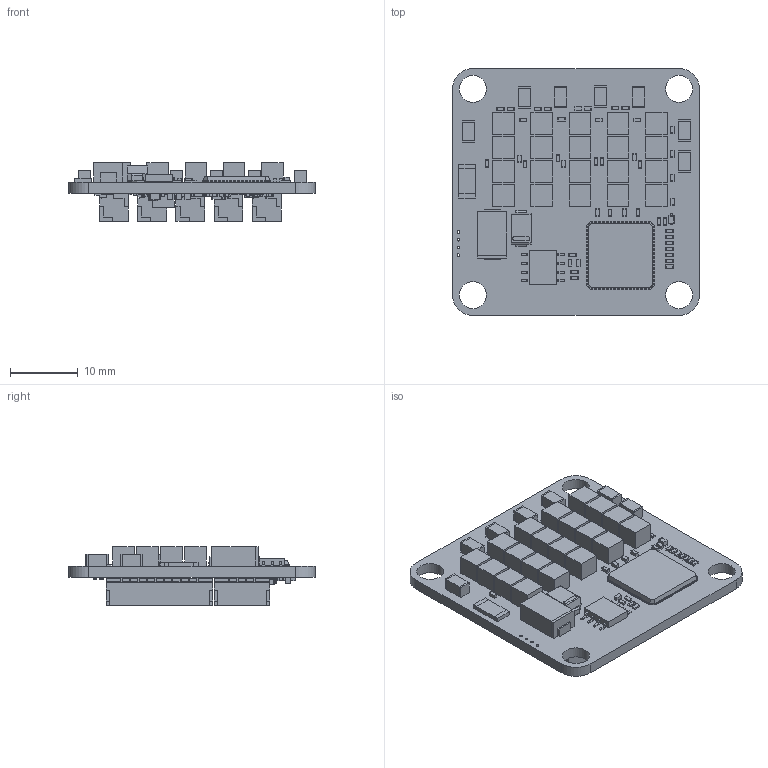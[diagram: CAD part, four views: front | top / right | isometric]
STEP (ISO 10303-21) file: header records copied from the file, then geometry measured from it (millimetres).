
FILE_DESCRIPTION(('Open CASCADE Model'),'2;1');
FILE_NAME('Open CASCADE Shape Model','2026-07-08T11:17:25',('Author'),( 'Open CASCADE'),'Open CASCADE STEP processor 7.5','Open CASCADE 7.5' ,'Unknown');
FILE_SCHEMA(('AUTOMOTIVE_DESIGN { 1 0 10303 214 1 1 1 1 }'));
Length unit declared in the file: millimetre
Products named in the file (287): PCB; Board; Open CASCADE STEP translator 7.5 1.1.1; R57; 9141928160; Extruded; 9141927824; C53; 9141934640; 9141934400; C52; C51; 9369740656; 9369738304; 9369737920; U4; 9370238048; 9868199776; 9370237376; 9868199536; R56; 8727418000; 8727417136; R55; 8727416416; 8727415600; R54; D12; Diode SMA; D11; RB751S40T1G; Body; PinKIdent; PinK; PinA; C50; 9142474528; 9142474048; C49; C48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
Assembly tree (664 placements, depth 5):
  PCB
    Board
      Open CASCADE STEP translator 7.5 1.1.1
    R57
      9141928160  x2
        Extruded
      9141927824
        Extruded
    C53
      9141934640  x2
        Extruded
      9141934400
        Extruded
    C52
      9141934640  x2
        Extruded
      9141934400
        Extruded
    C51
      9369740656  x2
        Extruded
      9369738304
        Extruded
      9369737920
        Extruded
    U4
      9370238048  x8
        Extruded
      9868199776  x8
        Extruded
      9370237376  x8
        Extruded
      9868199536
        Extruded
    R56
      8727418000
        Extruded
      8727417136  x2
        Extruded
    R55
      8727416416
        Extruded
      8727415600  x2
        Extruded
    R54
      8727416416
        Extruded
      8727415600  x2
        Extruded
    D12
      Diode SMA
    D11
      RB751S40T1G
        Body
        PinKIdent
        PinK
        PinA
    C50
      9142474528  x2
        Extruded
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Bounding box: 36.5 x 36.5 x 8.71 mm (x, y, z)
Volume: 3911.7 mm3; surface area: 8252.4 mm2
Topology: 794 solids, 794 shells, 7803 faces, 18087 edges, 11898 vertices
Faces by surface type: plane 6860, cylinder 663, bspline 256, sphere 16, torus 8
Full cylindrical faces by diameter (mm): 0.4 x4, 4 x4
Entity records: 92825 total; most frequent: CARTESIAN_POINT 17793, ORIENTED_EDGE 13502, DIRECTION 13327, EDGE_CURVE 6751, LINE 5425, VECTOR 5425, VERTEX_POINT 4378, AXIS2_PLACEMENT_3D 3951
